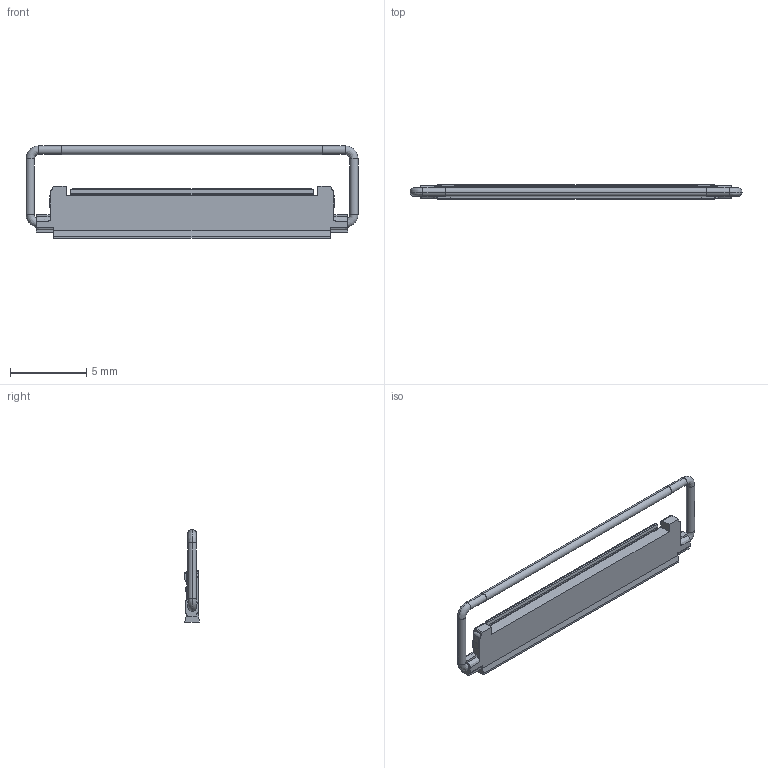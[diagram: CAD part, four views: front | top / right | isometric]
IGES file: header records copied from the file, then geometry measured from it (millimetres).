
Start section: SolidWorks IGES file using analytic representation for surfaces
Global section: file name: C:\Users\09466\Desktop\CABLINE-CAF HP—p\20858-040T-01_FPC ASS'Y.IGS; native system: SolidWorks 2023; preprocessor: SolidWorks 2023; author: 09466; date: 231101.132020; units: millimetre
Bounding box: 21.75 x 0.95 x 6.08 mm (x, y, z)
Surface area: 221.2 mm2 (no closed solid volume)
Topology: 0 solids, 0 shells, 178 faces, 1202 edges, 1202 vertices
Faces by surface type: bspline 103, revolution 75
